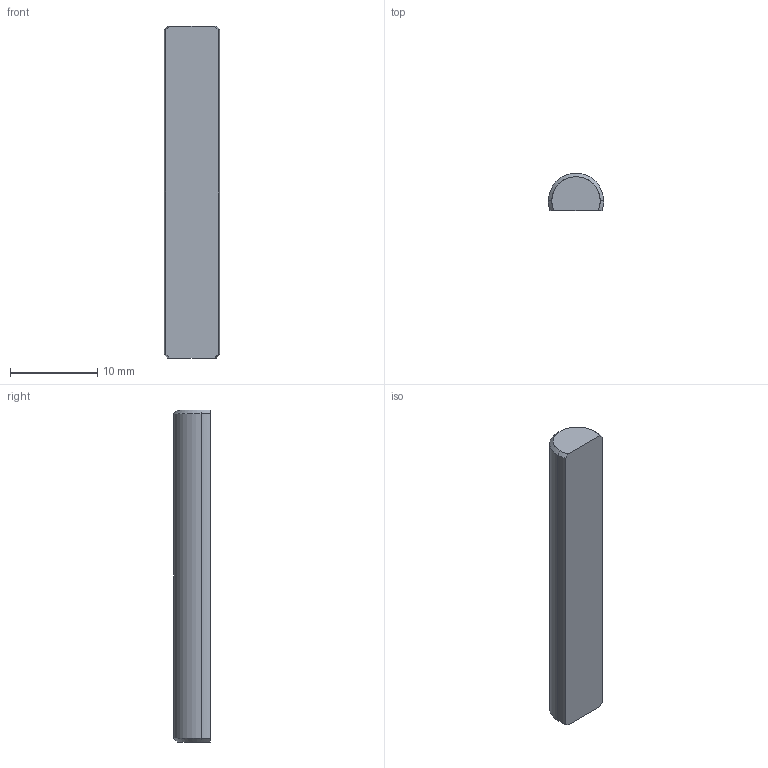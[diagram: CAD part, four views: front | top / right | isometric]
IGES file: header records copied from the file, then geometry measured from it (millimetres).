
Start section: SolidWorks IGES file using analytic representation for surfaces
Global section: file name: D:\Solid_parts\MECHeDESIGN\Bal-Tec\Catalog 105-A\Distribution\IGES\250-TC.IGS; native system: SolidWorks 2005 by SolidWorks Corporation; preprocessor: SolidWorks 2005 by SolidWorks Corporation; author: rvillegas; date: 061205.191121; units: inch
Bounding box: 6.35 x 4.24 x 38.1 mm (x, y, z)
Surface area: 729.4 mm2 (no closed solid volume)
Topology: 0 solids, 0 shells, 12 faces, 86 edges, 86 vertices
Faces by surface type: revolution 9, bspline 3
